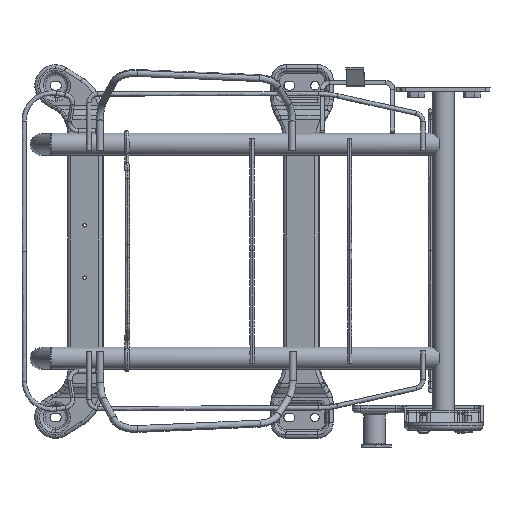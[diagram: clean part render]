
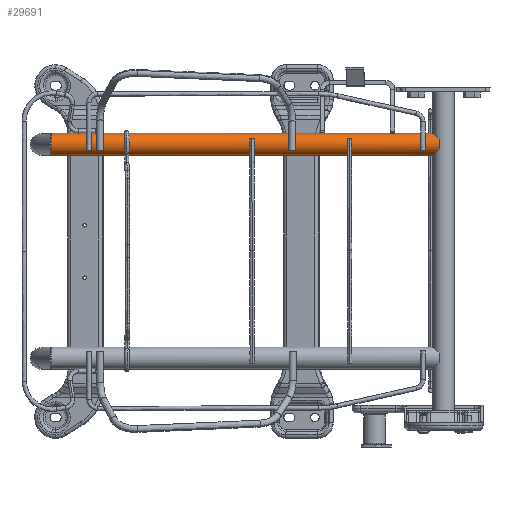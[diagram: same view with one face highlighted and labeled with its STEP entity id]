
A CAD part, top view. The second image highlights one B-rep face of the part: STEP entity #29691.
In plain terms, the highlighted cylindrical face has radius 12.5 mm (diameter 25 mm), a partial arc.
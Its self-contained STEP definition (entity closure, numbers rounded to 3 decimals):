
#29580=AXIS2_PLACEMENT_3D('Circle Axis2P3D',#29578,#29579,$) ;
#29618=AXIS2_PLACEMENT_3D('Cylinder Axis2P3D',#29615,#29616,#29617) ;
#29645=AXIS2_PLACEMENT_3D('Circle Axis2P3D',#29643,#29644,$) ;
#29578=CARTESIAN_POINT('Axis2P3D Location',(505.797,988.656,309.422)) ;
#29582=CARTESIAN_POINT('Vertex',(505.786,1001.156,309.422)) ;
#29584=CARTESIAN_POINT('Vertex',(505.807,976.156,309.422)) ;
#29615=CARTESIAN_POINT('Axis2P3D Location',(728.276,988.841,312.468)) ;
#29621=CARTESIAN_POINT('Control Point',(943.696,976.526,315.8)) ;
#29622=CARTESIAN_POINT('Control Point',(943.694,976.522,315.672)) ;
#29623=CARTESIAN_POINT('Control Point',(943.694,976.52,315.545)) ;
#29624=CARTESIAN_POINT('Control Point',(943.696,976.52,315.418)) ;
#29625=CARTESIAN_POINT('Vertex',(943.696,976.526,315.8)) ;
#29627=CARTESIAN_POINT('Vertex',(943.696,976.52,315.418)) ;
#29631=CARTESIAN_POINT('Control Point',(950.605,983.596,326.772)) ;
#29632=CARTESIAN_POINT('Control Point',(949.422,982.403,326.181)) ;
#29633=CARTESIAN_POINT('Control Point',(948.283,981.252,325.416)) ;
#29634=CARTESIAN_POINT('Control Point',(947.205,980.158,324.463)) ;
#29635=CARTESIAN_POINT('Control Point',(945.493,978.416,322.425)) ;
#29636=CARTESIAN_POINT('Control Point',(944.308,977.193,319.761)) ;
#29637=CARTESIAN_POINT('Control Point',(943.924,976.791,318.493)) ;
#29638=CARTESIAN_POINT('Control Point',(943.719,976.567,317.151)) ;
#29639=CARTESIAN_POINT('Control Point',(943.696,976.526,315.8)) ;
#29640=CARTESIAN_POINT('Vertex',(950.605,983.596,326.772)) ;
#29643=CARTESIAN_POINT('Axis2P3D Location',(950.755,989.026,315.514)) ;
#29647=CARTESIAN_POINT('Vertex',(950.596,994.455,326.772)) ;
#29651=CARTESIAN_POINT('Control Point',(950.596,994.455,326.772)) ;
#29652=CARTESIAN_POINT('Control Point',(949.411,995.647,326.181)) ;
#29653=CARTESIAN_POINT('Control Point',(948.27,996.796,325.416)) ;
#29654=CARTESIAN_POINT('Control Point',(947.19,997.887,324.463)) ;
#29655=CARTESIAN_POINT('Control Point',(945.475,999.627,322.425)) ;
#29656=CARTESIAN_POINT('Control Point',(944.289,1000.848,319.761)) ;
#29657=CARTESIAN_POINT('Control Point',(943.904,1001.249,318.493)) ;
#29658=CARTESIAN_POINT('Control Point',(943.698,1001.473,317.151)) ;
#29659=CARTESIAN_POINT('Control Point',(943.675,1001.514,315.8)) ;
#29660=CARTESIAN_POINT('Vertex',(943.675,1001.514,315.8)) ;
#29664=CARTESIAN_POINT('Control Point',(943.675,1001.514,315.8)) ;
#29665=CARTESIAN_POINT('Control Point',(943.673,1001.518,315.672)) ;
#29666=CARTESIAN_POINT('Control Point',(943.673,1001.52,315.545)) ;
#29667=CARTESIAN_POINT('Control Point',(943.675,1001.52,315.418)) ;
#29668=CARTESIAN_POINT('Vertex',(943.675,1001.52,315.418)) ;
#29671=CARTESIAN_POINT('Line Origine',(728.265,1001.341,312.468)) ;
#29676=CARTESIAN_POINT('Line Origine',(728.286,976.341,312.468)) ;
#29579=DIRECTION('Axis2P3D Direction',(1.,0.001,0.014)) ;
#29616=DIRECTION('Axis2P3D Direction',(1.,0.001,0.014)) ;
#29617=DIRECTION('Axis2P3D XDirection',(-0.001,1.,0.)) ;
#29644=DIRECTION('Axis2P3D Direction',(1.,0.001,0.014)) ;
#29672=DIRECTION('Vector Direction',(1.,0.001,0.014)) ;
#29677=DIRECTION('Vector Direction',(1.,0.001,0.014)) ;
#29673=VECTOR('Line Direction',#29672,1.) ;
#29678=VECTOR('Line Direction',#29677,1.) ;
#29682=ORIENTED_EDGE('',*,*,#29629,.F.) ;
#29683=ORIENTED_EDGE('',*,*,#29642,.F.) ;
#29684=ORIENTED_EDGE('',*,*,#29649,.F.) ;
#29685=ORIENTED_EDGE('',*,*,#29662,.T.) ;
#29686=ORIENTED_EDGE('',*,*,#29670,.T.) ;
#29687=ORIENTED_EDGE('',*,*,#29675,.F.) ;
#29688=ORIENTED_EDGE('',*,*,#29586,.T.) ;
#29689=ORIENTED_EDGE('',*,*,#29680,.T.) ;
#29691=ADVANCED_FACE('\X2\96F64EF651E04F554F53\X0\',(#29690),#29619,.T.) ;
#29620=B_SPLINE_CURVE_WITH_KNOTS('',3,(#29621,#29622,#29623,#29624),.UNSPECIFIED.,.F.,.U.,(4,4),(0.,0.54),.UNSPECIFIED.) ;
#29630=B_SPLINE_CURVE_WITH_KNOTS('',5,(#29631,#29632,#29633,#29634,#29635,#29636,#29637,#29638,#29639),.UNSPECIFIED.,.F.,.U.,(6,3,6),(0.,12.649,22.249),.UNSPECIFIED.) ;
#29650=B_SPLINE_CURVE_WITH_KNOTS('',5,(#29651,#29652,#29653,#29654,#29655,#29656,#29657,#29658,#29659),.UNSPECIFIED.,.F.,.U.,(6,3,6),(0.,12.649,22.249),.UNSPECIFIED.) ;
#29663=B_SPLINE_CURVE_WITH_KNOTS('',3,(#29664,#29665,#29666,#29667),.UNSPECIFIED.,.F.,.U.,(4,4),(0.,0.54),.UNSPECIFIED.) ;
#29581=CIRCLE('generated circle',#29580,12.5) ;
#29646=CIRCLE('generated circle',#29645,12.5) ;
#29619=CYLINDRICAL_SURFACE('generated cylinder',#29618,12.5) ;
#29586=EDGE_CURVE('',#29583,#29585,#29581,.T.) ;
#29629=EDGE_CURVE('',#29626,#29628,#29620,.T.) ;
#29642=EDGE_CURVE('',#29641,#29626,#29630,.T.) ;
#29649=EDGE_CURVE('',#29648,#29641,#29646,.T.) ;
#29662=EDGE_CURVE('',#29648,#29661,#29650,.T.) ;
#29670=EDGE_CURVE('',#29661,#29669,#29663,.T.) ;
#29675=EDGE_CURVE('',#29583,#29669,#29674,.T.) ;
#29680=EDGE_CURVE('',#29585,#29628,#29679,.T.) ;
#29681=EDGE_LOOP('',(#29682,#29683,#29684,#29685,#29686,#29687,#29688,#29689)) ;
#29690=FACE_OUTER_BOUND('',#29681,.T.) ;
#29674=LINE('Line',#29671,#29673) ;
#29679=LINE('Line',#29676,#29678) ;
#29583=VERTEX_POINT('',#29582) ;
#29585=VERTEX_POINT('',#29584) ;
#29626=VERTEX_POINT('',#29625) ;
#29628=VERTEX_POINT('',#29627) ;
#29641=VERTEX_POINT('',#29640) ;
#29648=VERTEX_POINT('',#29647) ;
#29661=VERTEX_POINT('',#29660) ;
#29669=VERTEX_POINT('',#29668) ;
